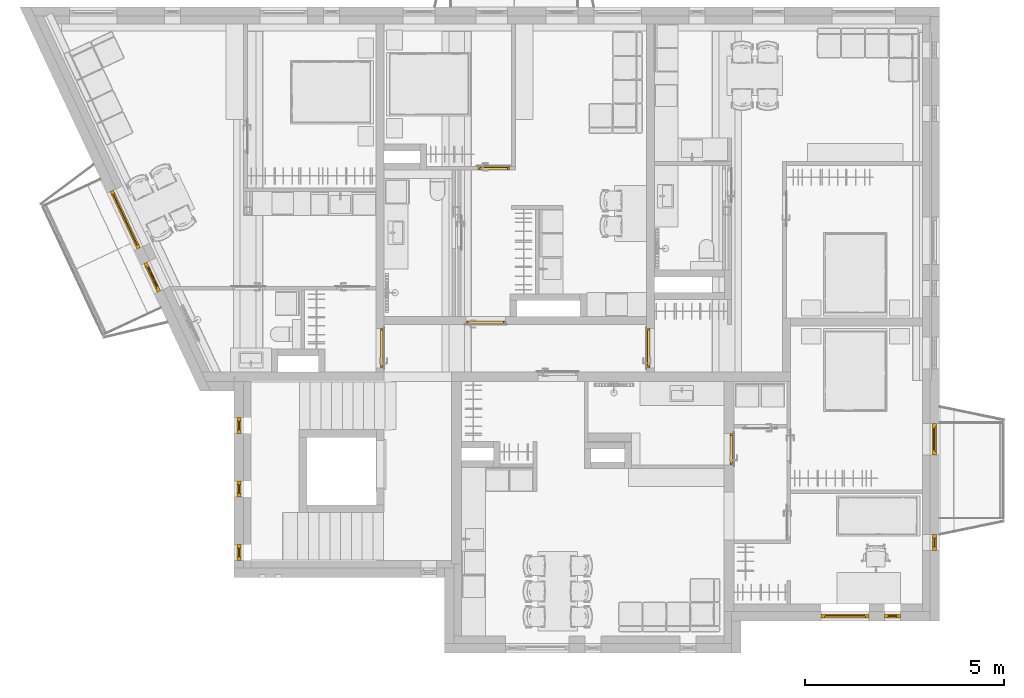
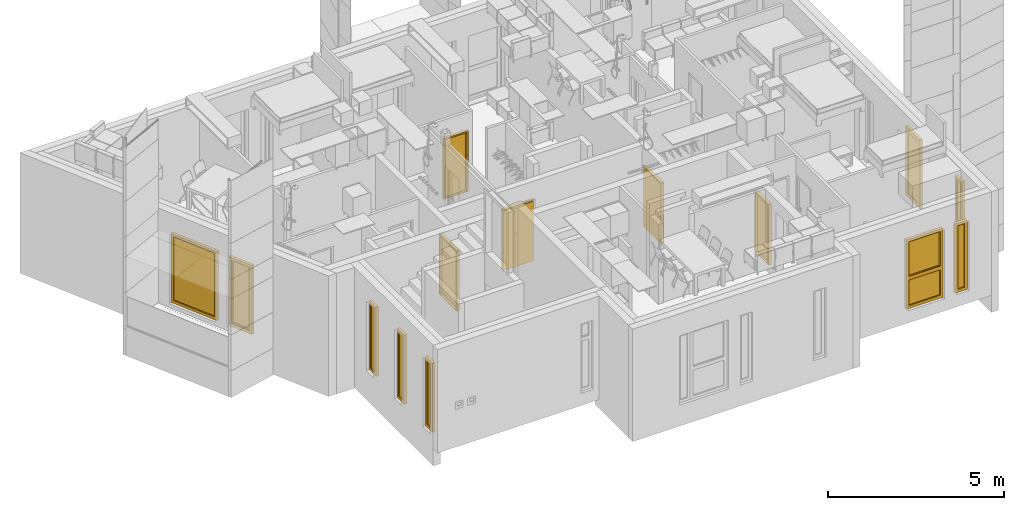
# One storey, part 44 of 125: 9 windows, 5 doors.
"""IFC2X3 building model written with IfcOpenShell, lengths in millimetres."""

from ifc_helpers import new_model, entity, si_unit, converted_unit, direction, frame, origin, place, context, subcontext, project, spatial, faceted_brep, source, transform, mapped, material, material_list, type_object, type_shapes, element, save


model = new_model("IFC2X3")

# Units and contexts
model_context = context("Model", 3, precision=0.01, world=origin(), true_north=direction((6.123233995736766e-17, 1.0)))
plan_context = context("Plan", 3, precision=0.01, world=origin(), true_north=direction((6.123233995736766e-17, 1.0)))
body_context = subcontext(model_context, "Body", "Model", "MODEL_VIEW")
ifc_project = project(units=[si_unit("LENGTHUNIT", "METRE", prefix="MILLI"), converted_unit("PLANEANGLEUNIT", "DEGREE", entity("IfcPlaneAngleMeasure", 0.017453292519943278), si_unit("PLANEANGLEUNIT", "RADIAN"), dimensions=[0, 0, 0, 0, 0, 0, 0]), si_unit("AREAUNIT", "SQUARE_METRE")], contexts=[model_context, plan_context])

# Site, building, storey
site_placement = place(None, origin())
site = spatial("IfcSite", under=ifc_project, at=site_placement, Name="Default", CompositionType="ELEMENT")
building_placement = place(site_placement, origin())
building = spatial("IfcBuilding", under=site, at=building_placement, CompositionType="ELEMENT")
storey_placement = place(building_placement, frame((0.0, 0.0, 3125.0)))
storey = spatial("IfcBuildingStorey", under=building, at=storey_placement, Name="2K", CompositionType="ELEMENT", Elevation=3125.0)

# Windows
ifc_material_1 = material(Name="_K. Klaas. Pakett")
ifc_material_2 = material(Name="_K. Avatäited. Raam. PVC. RAL9005")
ifc_material_3 = material(Name="_K. Avatäited. Raam. PVC. Valge")
ifc_material_list_1 = material_list([ifc_material_1, ifc_material_2, ifc_material_3])
window_style_1 = type_object("IfcWindowStyle", Name="HR_Window_Generic_Rectangle_1x2:A-13.1200x2400.P", ConstructionType="NOTDEFINED", OperationType="NOTDEFINED", ParameterTakesPrecedence=False, Sizeable=False, material=ifc_material_list_1)
shared_shape_1 = source(origin(), body_context, "Body", "Brep", [
    faceted_brep([(78.0, -154.0, 2322.0), (1122.0, -154.0, 2322.0), (1122.0, -154.0, 1101.0), (78.0, -154.0, 1101.0), (1122.0, -179.0, 2322.0), (1122.0, -179.0, 1101.0), (78.0, -179.0, 1101.0), (78.0, -179.0, 2322.0)], [[[0, 1, 2, 3]], [[2, 1, 4, 5]], [[3, 2, 5, 6]], [[0, 3, 6, 7]], [[7, 6, 5, 4]], [[1, 0, 7, 4]]]),
    faceted_brep([(1122.0, -154.0, 2322.0), (1122.0, -154.0, 1101.0), (1122.0, -179.0, 1101.0), (1122.0, -179.0, 2322.0), (1142.0, -134.0, 2342.0), (58.0, -134.0, 2342.0), (58.0, -194.0, 2342.0), (1142.0, -194.0, 2342.0), (98.0, -154.0, 2302.0), (98.0, -134.0, 2302.0), (1102.0, -134.0, 2302.0), (1102.0, -154.0, 2302.0), (98.0, -179.0, 2302.0), (98.0, -194.0, 2302.0), (98.0, -194.0, 1121.0), (98.0, -179.0, 1121.0), (1142.0, -134.0, 1081.0), (1142.0, -194.0, 1081.0), (58.0, -194.0, 1081.0), (58.0, -134.0, 1081.0), (1102.0, -194.0, 2302.0), (1102.0, -194.0, 1121.0), (98.0, -134.0, 1121.0), (1102.0, -134.0, 1121.0), (98.0, -154.0, 1121.0), (1102.0, -154.0, 1121.0), (78.0, -154.0, 1101.0), (78.0, -179.0, 1101.0), (78.0, -154.0, 2322.0), (78.0, -179.0, 2322.0), (1102.0, -179.0, 2302.0), (1102.0, -179.0, 1121.0)], [[[0, 1, 2, 3]], [[4, 5, 6, 7]], [[8, 9, 10, 11]], [[12, 13, 14, 15]], [[16, 17, 18, 19]], [[4, 7, 17, 16]], [[13, 20, 21, 14], [7, 6, 18, 17]], [[6, 5, 19, 18]], [[5, 4, 16, 19], [10, 9, 22, 23]], [[9, 8, 24, 22]], [[25, 23, 22, 24]], [[11, 10, 23, 25]], [[1, 26, 27, 2]], [[26, 28, 29, 27]], [[28, 26, 1, 0], [8, 11, 25, 24]], [[28, 0, 3, 29]], [[20, 30, 31, 21]], [[21, 31, 15, 14]], [[29, 3, 2, 27], [30, 12, 15, 31]], [[13, 12, 30, 20]]], outer=[[True], [True], [True], [True], [True], [True], [False, True], [True], [True, False], [True], [True], [True], [True], [True], [True, False], [True], [True], [True], [True, False], [True]]),
    faceted_brep([(88.0, -194.0, 989.0), (1112.0, -194.0, 989.0), (1112.0, -194.0, 108.0), (88.0, -194.0, 108.0), (1142.0, -194.0, 1019.0), (58.0, -194.0, 1019.0), (58.0, -194.0, 78.0), (1142.0, -194.0, 78.0), (88.0, -159.0, 989.0), (88.0, -159.0, 108.0), (1112.0, -159.0, 108.0), (1142.0, -159.0, 1019.0), (1142.0, -159.0, 78.0), (58.0, -159.0, 78.0), (58.0, -159.0, 1019.0), (1112.0, -159.0, 989.0)], [[[0, 1, 2, 3], [4, 5, 6, 7]], [[8, 0, 3, 9]], [[9, 3, 2, 10]], [[11, 12, 13, 14], [15, 8, 9, 10]], [[1, 15, 10, 2]], [[6, 5, 14, 13]], [[7, 6, 13, 12]], [[4, 7, 12, 11]], [[15, 1, 0, 8]], [[5, 4, 11, 14]]], outer=[[False, True], [True], [True], [True, False], [True], [True], [True], [True], [True], [True]]),
    faceted_brep([(1142.0, -159.0, 1019.0), (58.0, -159.0, 1019.0), (58.0, -159.0, 78.0), (1142.0, -159.0, 78.0), (58.0, -134.0, 1019.0), (58.0, -134.0, 78.0), (1142.0, -134.0, 78.0), (1142.0, -134.0, 1019.0)], [[[0, 1, 2, 3]], [[2, 1, 4, 5]], [[3, 2, 5, 6]], [[0, 3, 6, 7]], [[7, 6, 5, 4]], [[1, 0, 7, 4]]]),
    faceted_brep([(58.0, -134.0, 2342.0), (58.0, -134.0, 1081.0), (1142.0, -134.0, 1081.0), (1142.0, -134.0, 2342.0), (88.0, -134.0, 2312.0), (1112.0, -134.0, 2312.0), (1112.0, -134.0, 1111.0), (88.0, -134.0, 1111.0), (1142.0, -134.0, 1019.0), (1142.0, -134.0, 78.0), (1142.0, -194.0, 78.0), (1142.0, -194.0, 1019.0), (58.0, -134.0, 78.0), (58.0, -134.0, 1019.0), (58.0, -194.0, 1019.0), (58.0, -194.0, 78.0), (1112.0, -100.0, 108.0), (88.0, -100.0, 108.0), (88.0, -134.0, 108.0), (1112.0, -134.0, 108.0), (88.0, -100.0, 989.0), (88.0, -134.0, 989.0), (1112.0, -100.0, 989.0), (1112.0, -134.0, 989.0), (1200.0, -194.0, 2400.0), (0.0, -194.0, 2400.0), (0.0, -194.0, 30.0), (1200.0, -194.0, 30.0), (58.0, -194.0, 2342.0), (1142.0, -194.0, 2342.0), (1142.0, -194.0, 1081.0), (58.0, -194.0, 1081.0), (0.0, -100.0, 2400.0), (0.0, -100.0, 30.0), (0.0, -110.0, 30.0), (0.0, -110.0, 0.0), (0.0, -184.0, 0.0), (0.0, -184.0, 30.0), (1200.0, -184.0, 30.0), (1200.0, -100.0, 2400.0), (1200.0, -184.0, 0.0), (1200.0, -110.0, 0.0), (1200.0, -110.0, 30.0), (1200.0, -100.0, 30.0), (88.0, -100.0, 2312.0), (88.0, -100.0, 1111.0), (1112.0, -100.0, 1111.0), (1112.0, -100.0, 2312.0)], [[[0, 1, 2, 3], [4, 5, 6, 7]], [[8, 9, 10, 11]], [[12, 13, 14, 15]], [[9, 12, 15, 10]], [[16, 17, 18, 19]], [[17, 20, 21, 18]], [[22, 16, 19, 23]], [[11, 10, 15, 14], [24, 25, 26, 27], [28, 29, 30, 31]], [[25, 32, 33, 34, 35, 36, 37, 26]], [[37, 38, 27, 26]], [[39, 24, 27, 38, 40, 41, 42, 43]], [[17, 16, 22, 20], [32, 39, 43, 33], [44, 45, 46, 47]], [[42, 34, 33, 43]], [[34, 42, 41, 35]], [[35, 41, 40, 36]], [[38, 37, 36, 40]], [[25, 24, 39, 32]], [[44, 47, 5, 4]], [[47, 46, 6, 5]], [[45, 44, 4, 7]], [[0, 3, 29, 28]], [[3, 2, 30, 29]], [[13, 8, 11, 14]], [[1, 0, 28, 31]], [[2, 1, 31, 30]], [[46, 45, 7, 6]], [[20, 22, 23, 21]], [[9, 8, 13, 12], [19, 18, 21, 23]]], outer=[[True, False], [True], [True], [True], [True], [True], [True], [False, True, False], [True], [True], [True], [False, True, False], [True], [True], [True], [True], [True], [True], [True], [True], [True], [True], [True], [True], [True], [True], [True], [True, False]]),
])
type_shapes(window_style_1, [shared_shape_1])
window_1_placement = place(storey_placement, frame((15550.0, 350.0, 0.0), z_axis=(0.0, 0.0, 1.0), x_axis=(-1.0, 0.0, 0.0)))
element("IfcWindow", 1, at=window_1_placement, inside=storey, type_object=window_style_1, material=ifc_material_list_1, Name="HR_Window_Generic_Rectangle_1x2:A-13.1200x2400.P", ObjectType="HR_Window_Generic_Rectangle_1x2:A-13.1200x2400.P", OverallHeight=2465.0000000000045, OverallWidth=1200.0000000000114, context=body_context, shape_type="MappedRepresentation", body=[
    mapped(shared_shape_1, transform((0.0, 0.0, 0.0), scale=1.0)),
])
ifc_material_list_2 = material_list([ifc_material_3, ifc_material_1, ifc_material_2])
window_style_2 = type_object("IfcWindowStyle", Name="HR_Window_Generic_Rectangle_1x1:A-01.400x2400.ma", ConstructionType="NOTDEFINED", OperationType="NOTDEFINED", ParameterTakesPrecedence=False, Sizeable=False, material=ifc_material_list_2)
shared_shape_2 = source(origin(), body_context, "Body", "Brep", [
    faceted_brep([(88.0, -194.0, 2312.0), (312.0, -194.0, 2312.0), (312.0, -194.0, 108.0), (88.0, -194.0, 108.0), (342.0, -194.0, 2342.0), (58.0, -194.0, 2342.0), (58.0, -194.0, 78.0), (342.0, -194.0, 78.0), (88.0, -159.0, 2312.0), (88.0, -159.0, 108.0), (312.0, -159.0, 108.0), (342.0, -159.0, 2342.0), (342.0, -159.0, 78.0), (58.0, -159.0, 78.0), (58.0, -159.0, 2342.0), (312.0, -159.0, 2312.0)], [[[0, 1, 2, 3], [4, 5, 6, 7]], [[8, 0, 3, 9]], [[9, 3, 2, 10]], [[11, 12, 13, 14], [15, 8, 9, 10]], [[1, 15, 10, 2]], [[6, 5, 14, 13]], [[7, 6, 13, 12]], [[4, 7, 12, 11]], [[15, 1, 0, 8]], [[5, 4, 11, 14]]], outer=[[False, True], [True], [True], [True, False], [True], [True], [True], [True], [True], [True]]),
    faceted_brep([(342.0, -159.0, 2342.0), (58.0, -159.0, 2342.0), (58.0, -159.0, 78.0), (342.0, -159.0, 78.0), (58.0, -134.0, 2342.0), (58.0, -134.0, 78.0), (342.0, -134.0, 78.0), (342.0, -134.0, 2342.0)], [[[0, 1, 2, 3]], [[2, 1, 4, 5]], [[3, 2, 5, 6]], [[0, 3, 6, 7]], [[7, 6, 5, 4]], [[1, 0, 7, 4]]]),
    faceted_brep([(342.0, -134.0, 78.0), (58.0, -134.0, 78.0), (58.0, -194.0, 78.0), (342.0, -194.0, 78.0), (58.0, -134.0, 2342.0), (58.0, -194.0, 2342.0), (342.0, -134.0, 2342.0), (342.0, -194.0, 2342.0), (88.0, -100.0, 108.0), (88.0, -100.0, 2312.0), (88.0, -134.0, 2312.0), (88.0, -134.0, 108.0), (312.0, -100.0, 108.0), (312.0, -134.0, 108.0), (312.0, -100.0, 2312.0), (312.0, -134.0, 2312.0), (0.0, -100.0, 2400.0), (400.0, -100.0, 2400.0), (400.0, -100.0, 30.0), (0.0, -100.0, 30.0), (400.0, -194.0, 2400.0), (0.0, -194.0, 2400.0), (0.0, -194.0, 30.0), (400.0, -194.0, 30.0), (0.0, -110.0, 30.0), (0.0, -110.0, 0.0), (0.0, -184.0, 0.0), (0.0, -184.0, 30.0), (400.0, -184.0, 30.0), (400.0, -184.0, 0.0), (400.0, -110.0, 0.0), (400.0, -110.0, 30.0)], [[[0, 1, 2, 3]], [[1, 4, 5, 2]], [[6, 0, 3, 7]], [[8, 9, 10, 11]], [[12, 8, 11, 13]], [[14, 12, 13, 15]], [[16, 17, 18, 19], [9, 8, 12, 14]], [[20, 21, 22, 23], [7, 3, 2, 5]], [[21, 16, 19, 24, 25, 26, 27, 22]], [[27, 28, 23, 22]], [[17, 20, 23, 28, 29, 30, 31, 18]], [[31, 24, 19, 18]], [[24, 31, 30, 25]], [[25, 30, 29, 26]], [[28, 27, 26, 29]], [[4, 6, 7, 5]], [[9, 14, 15, 10]], [[21, 20, 17, 16]], [[10, 15, 13, 11], [0, 6, 4, 1]]], outer=[[True], [True], [True], [True], [True], [True], [True, False], [True, False], [True], [True], [True], [True], [True], [True], [True], [True], [True], [True], [False, True]]),
])
type_shapes(window_style_2, [shared_shape_2])
for number, where, z_axis, x_axis in (
    (2, (17350.0, 2550.0, 0.0), (0.0, 0.0, 1.0), (0.0, -1.0, 0.0)),
    (3, (16350.0, 350.0, 0.0), (0.0, 0.0, 1.0), (-1.0, 0.0, 0.0)),
    (4, (-450.0, 1900.0, 0.0), (0.0, 0.0, 1.0), (0.0, 1.0, 0.0)),
    (5, (-450.0, 3500.0, 0.0), (0.0, 0.0, 1.0), (0.0, 1.0, 0.0)),
    (6, (-450.0, 5100.0, 0.0), (0.0, 0.0, 1.0), (0.0, 1.0, 0.0)),
):
    element("IfcWindow", number, at=place(storey_placement, frame(where, z_axis=z_axis, x_axis=x_axis)), inside=storey, type_object=window_style_2, material=ifc_material_list_2, Name="HR_Window_Generic_Rectangle_1x1:A-01.400x2400.ma", ObjectType="HR_Window_Generic_Rectangle_1x1:A-01.400x2400.ma", OverallHeight=2465.0000000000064, OverallWidth=400.0000000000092, context=body_context, shape_type="MappedRepresentation", body=[
        mapped(shared_shape_2, transform((0.0, 0.0, 0.0), scale=1.0)),
    ])
ifc_material_list_3 = material_list([ifc_material_1, ifc_material_2])
window_style_3 = type_object("IfcWindowStyle", Name="HR_Window_Generic_Rectangle_1x1:A-10.800x2400.P", ConstructionType="NOTDEFINED", OperationType="NOTDEFINED", ParameterTakesPrecedence=False, Sizeable=False, material=ifc_material_list_3)
shared_shape_3 = source(origin(), body_context, "Body", "Brep", [
    faceted_brep([(108.0, -154.0, 2292.0), (692.0, -154.0, 2292.0), (692.0, -154.0, 128.0), (108.0, -154.0, 128.0), (692.0, -179.0, 2292.0), (692.0, -179.0, 128.0), (108.0, -179.0, 128.0), (108.0, -179.0, 2292.0)], [[[0, 1, 2, 3]], [[2, 1, 4, 5]], [[3, 2, 5, 6]], [[0, 3, 6, 7]], [[7, 6, 5, 4]], [[1, 0, 7, 4]]]),
    faceted_brep([(692.0, -154.0, 2292.0), (692.0, -154.0, 128.0), (692.0, -179.0, 128.0), (692.0, -179.0, 2292.0), (742.0, -134.0, 2342.0), (58.0, -134.0, 2342.0), (58.0, -194.0, 2342.0), (742.0, -194.0, 2342.0), (128.0, -154.0, 2272.0), (128.0, -134.0, 2272.0), (672.0, -134.0, 2272.0), (672.0, -154.0, 2272.0), (128.0, -179.0, 2272.0), (128.0, -194.0, 2272.0), (128.0, -194.0, 148.0), (128.0, -179.0, 148.0), (742.0, -134.0, 78.0), (742.0, -194.0, 78.0), (58.0, -194.0, 78.0), (58.0, -134.0, 78.0), (672.0, -194.0, 2272.0), (672.0, -194.0, 148.0), (128.0, -134.0, 148.0), (672.0, -134.0, 148.0), (128.0, -154.0, 148.0), (672.0, -154.0, 148.0), (108.0, -154.0, 128.0), (108.0, -179.0, 128.0), (108.0, -154.0, 2292.0), (108.0, -179.0, 2292.0), (672.0, -179.0, 2272.0), (672.0, -179.0, 148.0)], [[[0, 1, 2, 3]], [[4, 5, 6, 7]], [[8, 9, 10, 11]], [[12, 13, 14, 15]], [[16, 17, 18, 19]], [[4, 7, 17, 16]], [[13, 20, 21, 14], [7, 6, 18, 17]], [[6, 5, 19, 18]], [[5, 4, 16, 19], [10, 9, 22, 23]], [[9, 8, 24, 22]], [[25, 23, 22, 24]], [[11, 10, 23, 25]], [[1, 26, 27, 2]], [[26, 28, 29, 27]], [[28, 26, 1, 0], [8, 11, 25, 24]], [[28, 0, 3, 29]], [[20, 30, 31, 21]], [[21, 31, 15, 14]], [[29, 3, 2, 27], [30, 12, 15, 31]], [[13, 12, 30, 20]]], outer=[[True], [True], [True], [True], [True], [True], [False, True], [True], [True, False], [True], [True], [True], [True], [True], [True, False], [True], [True], [True], [True, False], [True]]),
    faceted_brep([(742.0, -134.0, 78.0), (58.0, -134.0, 78.0), (58.0, -194.0, 78.0), (742.0, -194.0, 78.0), (58.0, -134.0, 2342.0), (58.0, -194.0, 2342.0), (742.0, -134.0, 2342.0), (742.0, -194.0, 2342.0), (88.0, -100.0, 108.0), (88.0, -100.0, 2312.0), (88.0, -134.0, 2312.0), (88.0, -134.0, 108.0), (712.0, -100.0, 108.0), (712.0, -134.0, 108.0), (712.0, -100.0, 2312.0), (712.0, -134.0, 2312.0), (0.0, -100.0, 2400.0), (800.0, -100.0, 2400.0), (800.0, -100.0, 30.0), (0.0, -100.0, 30.0), (800.0, -194.0, 2400.0), (0.0, -194.0, 2400.0), (0.0, -194.0, 30.0), (800.0, -194.0, 30.0), (0.0, -110.0, 30.0), (0.0, -110.0, 0.0), (0.0, -184.0, 0.0), (0.0, -184.0, 30.0), (800.0, -184.0, 30.0), (800.0, -184.0, 0.0), (800.0, -110.0, 0.0), (800.0, -110.0, 30.0)], [[[0, 1, 2, 3]], [[1, 4, 5, 2]], [[6, 0, 3, 7]], [[8, 9, 10, 11]], [[12, 8, 11, 13]], [[14, 12, 13, 15]], [[16, 17, 18, 19], [9, 8, 12, 14]], [[20, 21, 22, 23], [7, 3, 2, 5]], [[21, 16, 19, 24, 25, 26, 27, 22]], [[27, 28, 23, 22]], [[17, 20, 23, 28, 29, 30, 31, 18]], [[31, 24, 19, 18]], [[24, 31, 30, 25]], [[25, 30, 29, 26]], [[28, 27, 26, 29]], [[4, 6, 7, 5]], [[9, 14, 15, 10]], [[21, 20, 17, 16]], [[10, 15, 13, 11], [0, 6, 4, 1]]], outer=[[True], [True], [True], [True], [True], [True], [True, False], [True, False], [True], [True], [True], [True], [True], [True], [True], [True], [True], [True], [False, True]]),
])
type_shapes(window_style_3, [shared_shape_3])
for number, where, z_axis, x_axis in (
    (7, (17350.0, 5350.0, 0.0), (0.0, 0.0, 1.0), (0.0, -1.0, 0.0)),
    (8, (-2454.5126056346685, 8606.308408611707, 0.0), (0.0, 0.0, 1.0), (-0.4244338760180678, 0.905458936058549, 0.0)),
):
    element("IfcWindow", number, at=place(storey_placement, frame(where, z_axis=z_axis, x_axis=x_axis)), inside=storey, type_object=window_style_3, material=ifc_material_list_3, Name="HR_Window_Generic_Rectangle_1x1:A-10.800x2400.P", ObjectType="HR_Window_Generic_Rectangle_1x1:A-10.800x2400.P", OverallHeight=2465.0000000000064, OverallWidth=800.000000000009, context=body_context, shape_type="MappedRepresentation", body=[
        mapped(shared_shape_3, transform((0.0, 0.0, 0.0), scale=1.0)),
    ])
window_style_4 = type_object("IfcWindowStyle", Name="HR_Window_Generic_Rectangle_1x1:A-04.1600x2400.ma", ConstructionType="NOTDEFINED", OperationType="NOTDEFINED", ParameterTakesPrecedence=False, Sizeable=False, material=ifc_material_list_2)
shared_shape_4 = source(origin(), body_context, "Body", "Brep", [
    faceted_brep([(88.0, -194.0, 2312.0), (1512.0, -194.0, 2312.0), (1512.0, -194.0, 108.0), (88.0, -194.0, 108.0), (1542.0, -194.0, 2342.0), (58.0, -194.0, 2342.0), (58.0, -194.0, 78.0), (1542.0, -194.0, 78.0), (88.0, -159.0, 2312.0), (88.0, -159.0, 108.0), (1512.0, -159.0, 108.0), (1542.0, -159.0, 2342.0), (1542.0, -159.0, 78.0), (58.0, -159.0, 78.0), (58.0, -159.0, 2342.0), (1512.0, -159.0, 2312.0)], [[[0, 1, 2, 3], [4, 5, 6, 7]], [[8, 0, 3, 9]], [[9, 3, 2, 10]], [[11, 12, 13, 14], [15, 8, 9, 10]], [[1, 15, 10, 2]], [[6, 5, 14, 13]], [[7, 6, 13, 12]], [[4, 7, 12, 11]], [[15, 1, 0, 8]], [[5, 4, 11, 14]]], outer=[[False, True], [True], [True], [True, False], [True], [True], [True], [True], [True], [True]]),
    faceted_brep([(1542.0, -159.0, 2342.0), (58.0, -159.0, 2342.0), (58.0, -159.0, 78.0), (1542.0, -159.0, 78.0), (58.0, -134.0, 2342.0), (58.0, -134.0, 78.0), (1542.0, -134.0, 78.0), (1542.0, -134.0, 2342.0)], [[[0, 1, 2, 3]], [[2, 1, 4, 5]], [[3, 2, 5, 6]], [[0, 3, 6, 7]], [[7, 6, 5, 4]], [[1, 0, 7, 4]]]),
    faceted_brep([(1542.0, -134.0, 78.0), (58.0, -134.0, 78.0), (58.0, -194.0, 78.0), (1542.0, -194.0, 78.0), (58.0, -134.0, 2342.0), (58.0, -194.0, 2342.0), (1542.0, -134.0, 2342.0), (1542.0, -194.0, 2342.0), (88.0, -100.0, 108.0), (88.0, -100.0, 2312.0), (88.0, -134.0, 2312.0), (88.0, -134.0, 108.0), (1512.0, -100.0, 108.0), (1512.0, -134.0, 108.0), (1512.0, -100.0, 2312.0), (1512.0, -134.0, 2312.0), (0.0, -100.0, 2400.0), (1600.0, -100.0, 2400.0), (1600.0, -100.0, 30.0), (0.0, -100.0, 30.0), (1600.0, -194.0, 2400.0), (0.0, -194.0, 2400.0), (0.0, -194.0, 30.0), (1600.0, -194.0, 30.0), (0.0, -110.0, 30.0), (0.0, -110.0, 0.0), (0.0, -184.0, 0.0), (0.0, -184.0, 30.0), (1600.0, -184.0, 30.0), (1600.0, -184.0, 0.0), (1600.0, -110.0, 0.0), (1600.0, -110.0, 30.0)], [[[0, 1, 2, 3]], [[1, 4, 5, 2]], [[6, 0, 3, 7]], [[8, 9, 10, 11]], [[12, 8, 11, 13]], [[14, 12, 13, 15]], [[16, 17, 18, 19], [9, 8, 12, 14]], [[20, 21, 22, 23], [7, 3, 2, 5]], [[21, 16, 19, 24, 25, 26, 27, 22]], [[27, 28, 23, 22]], [[17, 20, 23, 28, 29, 30, 31, 18]], [[31, 24, 19, 18]], [[24, 31, 30, 25]], [[25, 30, 29, 26]], [[28, 27, 26, 29]], [[4, 6, 7, 5]], [[9, 14, 15, 10]], [[21, 20, 17, 16]], [[10, 15, 13, 11], [0, 6, 4, 1]]], outer=[[True], [True], [True], [True], [True], [True], [True, False], [True, False], [True], [True], [True], [True], [True], [True], [True], [True], [True], [True], [False, True]]),
])
type_shapes(window_style_4, [shared_shape_4])
window_2_placement = place(storey_placement, frame((-2963.8332568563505, 9692.859131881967, 0.0), z_axis=(0.0, 0.0, 1.0), x_axis=(-0.4244338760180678, 0.905458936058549, 0.0)))
element("IfcWindow", 9, at=window_2_placement, inside=storey, type_object=window_style_4, material=ifc_material_list_2, Name="HR_Window_Generic_Rectangle_1x1:A-04.1600x2400.ma", ObjectType="HR_Window_Generic_Rectangle_1x1:A-04.1600x2400.ma", OverallHeight=2465.0000000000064, OverallWidth=1600.0000000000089, context=body_context, shape_type="MappedRepresentation", body=[
    mapped(shared_shape_4, transform((0.0, 0.0, 0.0), scale=1.0)),
])

# Doors
ifc_material_4 = material(Name="<Unnamed>")
ifc_material_5 = material(Name="Default")
ifc_material_list_4 = material_list([ifc_material_4, ifc_material_5])
door_style_1 = type_object("IfcDoorStyle", Name="HR_Generic_Hinged_Single:Default. Manteluks lävepakuga. 1000 x 2100 mm. Left", ConstructionType="NOTDEFINED", OperationType="NOTDEFINED", ParameterTakesPrecedence=False, Sizeable=False, material=ifc_material_list_4)
shared_shape_5 = source(origin(), body_context, "Body", "Brep", [
    faceted_brep([(965.0, -1000.0, 20.0), (35.0, -1000.0, 20.0), (35.0, -1030.0, 20.0), (50.0, -1030.0, 20.0), (50.0, -1092.0, 20.0), (950.0, -1092.0, 20.0), (950.0, -1030.0, 20.0), (965.0, -1030.0, 20.0), (35.0, -1000.0, 0.0), (965.0, -1000.0, 0.0), (965.0, -1030.0, 0.0), (950.0, -1030.0, 0.0), (950.0, -1092.0, 0.0), (50.0, -1092.0, 0.0), (50.0, -1030.0, 0.0), (35.0, -1030.0, 0.0)], [[[0, 1, 2, 3, 4, 5, 6, 7]], [[8, 9, 10, 11, 12, 13, 14, 15]], [[1, 0, 9, 8]], [[5, 4, 13, 12]], [[2, 1, 8, 15]], [[0, 7, 10, 9]], [[3, 14, 13, 4]], [[14, 3, 2, 15]], [[6, 11, 10, 7]], [[11, 6, 5, 12]]]),
    faceted_brep([(37.0, -1030.0, 2060.0), (37.0, -1030.0, 25.0), (963.0, -1030.0, 25.0), (963.0, -1030.0, 2060.0), (27.0, -990.0, 25.0), (27.0, -990.0, 2070.0), (973.0, -990.0, 2070.0), (973.0, -990.0, 25.0), (37.0, -1000.0, 2060.0), (37.0, -1000.0, 25.0), (27.0, -1000.0, 25.0), (973.0, -1000.0, 25.0), (963.0, -1000.0, 25.0), (963.0, -1000.0, 2060.0), (27.0, -1000.0, 2070.0), (973.0, -1000.0, 2070.0)], [[[0, 1, 2, 3]], [[4, 5, 6, 7]], [[1, 0, 8, 9]], [[2, 1, 9, 10, 4, 7, 11, 12]], [[3, 2, 12, 13]], [[0, 3, 13, 8]], [[14, 10, 9, 8, 13, 12, 11, 15]], [[6, 5, 14, 15]], [[7, 6, 15, 11]], [[5, 4, 10, 14]]]),
    faceted_brep([(1000.0, -1092.0, 0.0), (950.0, -1092.0, 0.0), (950.0, -1030.0, 0.0), (965.0, -1030.0, 0.0), (965.0, -1000.0, 0.0), (1000.0, -1000.0, 0.0), (1000.0, -1092.0, 2100.0), (0.0, -1092.0, 2100.0), (0.0, -1092.0, 0.0), (50.0, -1092.0, 0.0), (50.0, -1092.0, 2050.0), (950.0, -1092.0, 2050.0), (950.0, -1030.0, 2050.0), (35.0, -1030.0, 2065.0), (965.0, -1030.0, 2065.0), (50.0, -1030.0, 2050.0), (50.0, -1030.0, 0.0), (35.0, -1030.0, 0.0), (965.0, -1000.0, 2065.0), (0.0, -1000.0, 0.0), (0.0, -1000.0, 2100.0), (1000.0, -1000.0, 2100.0), (35.0, -1000.0, 2065.0), (35.0, -1000.0, 0.0)], [[[0, 1, 2, 3, 4, 5]], [[1, 0, 6, 7, 8, 9, 10, 11]], [[1, 11, 12, 2]], [[13, 14, 3, 2, 12, 15, 16, 17]], [[3, 14, 18, 4]], [[19, 20, 21, 5, 4, 18, 22, 23]], [[0, 5, 21, 6]], [[8, 19, 23, 17, 16, 9]], [[19, 8, 7, 20]], [[13, 17, 23, 22]], [[10, 9, 16, 15]], [[7, 6, 21, 20]], [[11, 10, 15, 12]], [[14, 13, 22, 18]]]),
])
type_shapes(door_style_1, [shared_shape_5])
door_1_placement = place(storey_placement, frame((8950.0, 6744.999979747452, 0.0), z_axis=(0.0, 0.0, 1.0), x_axis=(0.0, 1.0, 0.0)))
element("IfcDoor", 10, at=door_1_placement, inside=storey, type_object=door_style_1, material=ifc_material_list_4, Name="HR_Generic_Hinged_Single:Default. Manteluks lävepakuga. 1000 x 2100 mm. Left", ObjectType="HR_Generic_Hinged_Single:Default. Manteluks lävepakuga. 1000 x 2100 mm. Left", OverallHeight=2130.000000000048, OverallWidth=1060.0000000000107, context=body_context, shape_type="MappedRepresentation", body=[
    mapped(shared_shape_5, transform((0.0, 0.0, 0.0), scale=1.0)),
])
door_style_2 = type_object("IfcDoorStyle", Name="HR_Generic_Hinged_Single:Default. Manteluks lävepakuga. 1000 x 2100 mm. Right", ConstructionType="NOTDEFINED", OperationType="NOTDEFINED", ParameterTakesPrecedence=False, Sizeable=False, material=ifc_material_4)
shared_shape_6 = source(origin(), body_context, "Body", "Brep", [
    faceted_brep([(965.0, 1092.0, 20.0), (35.0, 1092.0, 20.0), (35.0, 1062.0, 20.0), (50.0, 1062.0, 20.0), (50.0, 1000.0, 20.0), (950.0, 1000.0, 20.0), (950.0, 1062.0, 20.0), (965.0, 1062.0, 20.0), (35.0, 1092.0, 0.0), (965.0, 1092.0, 0.0), (965.0, 1062.0, 0.0), (950.0, 1062.0, 0.0), (950.0, 1000.0, 0.0), (50.0, 1000.0, 0.0), (50.0, 1062.0, 0.0), (35.0, 1062.0, 0.0)], [[[0, 1, 2, 3, 4, 5, 6, 7]], [[8, 9, 10, 11, 12, 13, 14, 15]], [[1, 0, 9, 8]], [[5, 4, 13, 12]], [[2, 1, 8, 15]], [[0, 7, 10, 9]], [[3, 14, 13, 4]], [[14, 3, 2, 15]], [[6, 11, 10, 7]], [[11, 6, 5, 12]]]),
    faceted_brep([(37.0, 1062.0, 2060.0), (37.0, 1062.0, 25.0), (963.0, 1062.0, 25.0), (963.0, 1062.0, 2060.0), (27.0, 1102.0, 25.0), (27.0, 1102.0, 2070.0), (973.0, 1102.0, 2070.0), (973.0, 1102.0, 25.0), (37.0, 1092.0, 2060.0), (37.0, 1092.0, 25.0), (27.0, 1092.0, 25.0), (973.0, 1092.0, 25.0), (963.0, 1092.0, 25.0), (963.0, 1092.0, 2060.0), (27.0, 1092.0, 2070.0), (973.0, 1092.0, 2070.0)], [[[0, 1, 2, 3]], [[4, 5, 6, 7]], [[1, 0, 8, 9]], [[2, 1, 9, 10, 4, 7, 11, 12]], [[3, 2, 12, 13]], [[0, 3, 13, 8]], [[14, 10, 9, 8, 13, 12, 11, 15]], [[6, 5, 14, 15]], [[7, 6, 15, 11]], [[5, 4, 10, 14]]]),
    faceted_brep([(1000.0, 1000.0, 0.0), (950.0, 1000.0, 0.0), (950.0, 1062.0, 0.0), (965.0, 1062.0, 0.0), (965.0, 1092.0, 0.0), (1000.0, 1092.0, 0.0), (1000.0, 1000.0, 2100.0), (0.0, 1000.0, 2100.0), (0.0, 1000.0, 0.0), (50.0, 1000.0, 0.0), (50.0, 1000.0, 2050.0), (950.0, 1000.0, 2050.0), (950.0, 1062.0, 2050.0), (35.0, 1062.0, 2065.0), (965.0, 1062.0, 2065.0), (50.0, 1062.0, 2050.0), (50.0, 1062.0, 0.0), (35.0, 1062.0, 0.0), (965.0, 1092.0, 2065.0), (0.0, 1092.0, 0.0), (0.0, 1092.0, 2100.0), (1000.0, 1092.0, 2100.0), (35.0, 1092.0, 2065.0), (35.0, 1092.0, 0.0)], [[[0, 1, 2, 3, 4, 5]], [[1, 0, 6, 7, 8, 9, 10, 11]], [[1, 11, 12, 2]], [[13, 14, 3, 2, 12, 15, 16, 17]], [[3, 14, 18, 4]], [[19, 20, 21, 5, 4, 18, 22, 23]], [[0, 5, 21, 6]], [[8, 19, 23, 17, 16, 9]], [[19, 8, 7, 20]], [[13, 17, 23, 22]], [[10, 9, 16, 15]], [[7, 6, 21, 20]], [[11, 10, 15, 12]], [[14, 13, 22, 18]]]),
])
type_shapes(door_style_2, [shared_shape_6])
for number, where, z_axis, x_axis, name in (
    (11, (2252.9935349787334, 7744.999979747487, 0.0), (0.0, 0.0, 1.0), (0.0, -1.0, 0.0), "HR_Generic_Hinged_Single:Default. Manteluks lävepakuga. 1000 x 2100 mm. Right"),
    (12, (6404.0, 8932.0, 0.0), (0.0, 0.0, 1.0), (-1.0, 0.0, 0.0), "HR_Generic_Hinged_Single:Default. Manteluks lävepakuga. 1000 x 2100 mm. Right"),
):
    element("IfcDoor", number, at=place(storey_placement, frame(where, z_axis=z_axis, x_axis=x_axis)), inside=storey, type_object=door_style_2, material=ifc_material_4, Name=name, ObjectType="HR_Generic_Hinged_Single:Default. Manteluks lävepakuga. 1000 x 2100 mm. Right", OverallHeight=2130.000000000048, OverallWidth=1060.0000000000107, context=body_context, shape_type="MappedRepresentation", body=[
        mapped(shared_shape_6, transform((0.0, 0.0, 0.0), scale=1.0)),
    ])
ifc_material_6 = material(Name="_K. Puit. Peitsitud ja lakitud")
door_style_3 = type_object("IfcDoorStyle", Name="HR_Generic_Hinged_Single:Default. Manteluks lävepakuga. 800 x 2100 mm. Left", ConstructionType="NOTDEFINED", OperationType="NOTDEFINED", ParameterTakesPrecedence=False, Sizeable=False, material=ifc_material_6)
shared_shape_7 = source(origin(), body_context, "Body", "Brep", [
    faceted_brep([(765.0, -1000.0, 20.0), (35.0, -1000.0, 20.0), (35.0, -1030.0, 20.0), (50.0, -1030.0, 20.0), (50.0, -1092.0, 20.0), (750.0, -1092.0, 20.0), (750.0, -1030.0, 20.0), (765.0, -1030.0, 20.0), (35.0, -1000.0, 0.0), (765.0, -1000.0, 0.0), (765.0, -1030.0, 0.0), (750.0, -1030.0, 0.0), (750.0, -1092.0, 0.0), (50.0, -1092.0, 0.0), (50.0, -1030.0, 0.0), (35.0, -1030.0, 0.0)], [[[0, 1, 2, 3, 4, 5, 6, 7]], [[8, 9, 10, 11, 12, 13, 14, 15]], [[1, 0, 9, 8]], [[5, 4, 13, 12]], [[2, 1, 8, 15]], [[0, 7, 10, 9]], [[3, 14, 13, 4]], [[14, 3, 2, 15]], [[6, 11, 10, 7]], [[11, 6, 5, 12]]]),
    faceted_brep([(37.0, -1030.0, 2060.0), (37.0, -1030.0, 25.0), (763.0, -1030.0, 25.0), (763.0, -1030.0, 2060.0), (27.0, -990.0, 25.0), (27.0, -990.0, 2070.0), (773.0, -990.0, 2070.0), (773.0, -990.0, 25.0), (37.0, -1000.0, 2060.0), (37.0, -1000.0, 25.0), (27.0, -1000.0, 25.0), (773.0, -1000.0, 25.0), (763.0, -1000.0, 25.0), (763.0, -1000.0, 2060.0), (27.0, -1000.0, 2070.0), (773.0, -1000.0, 2070.0)], [[[0, 1, 2, 3]], [[4, 5, 6, 7]], [[1, 0, 8, 9]], [[2, 1, 9, 10, 4, 7, 11, 12]], [[3, 2, 12, 13]], [[0, 3, 13, 8]], [[14, 10, 9, 8, 13, 12, 11, 15]], [[6, 5, 14, 15]], [[7, 6, 15, 11]], [[5, 4, 10, 14]]]),
    faceted_brep([(800.0, -1092.0, 0.0), (750.0, -1092.0, 0.0), (750.0, -1030.0, 0.0), (765.0, -1030.0, 0.0), (765.0, -1000.0, 0.0), (800.0, -1000.0, 0.0), (800.0, -1092.0, 2100.0), (0.0, -1092.0, 2100.0), (0.0, -1092.0, 0.0), (50.0, -1092.0, 0.0), (50.0, -1092.0, 2050.0), (750.0, -1092.0, 2050.0), (750.0, -1030.0, 2050.0), (35.0, -1030.0, 2065.0), (765.0, -1030.0, 2065.0), (50.0, -1030.0, 2050.0), (50.0, -1030.0, 0.0), (35.0, -1030.0, 0.0), (765.0, -1000.0, 2065.0), (0.0, -1000.0, 0.0), (0.0, -1000.0, 2100.0), (800.0, -1000.0, 2100.0), (35.0, -1000.0, 2065.0), (35.0, -1000.0, 0.0)], [[[0, 1, 2, 3, 4, 5]], [[1, 0, 6, 7, 8, 9, 10, 11]], [[1, 11, 12, 2]], [[13, 14, 3, 2, 12, 15, 16, 17]], [[3, 14, 18, 4]], [[19, 20, 21, 5, 4, 18, 22, 23]], [[0, 5, 21, 6]], [[8, 19, 23, 17, 16, 9]], [[19, 8, 7, 20]], [[13, 17, 23, 22]], [[10, 9, 16, 15]], [[7, 6, 21, 20]], [[11, 10, 15, 12]], [[14, 13, 22, 18]]]),
])
type_shapes(door_style_3, [shared_shape_7])
door_2_placement = place(storey_placement, frame((5708.0, 12822.0, 0.0)))
element("IfcDoor", 13, at=door_2_placement, inside=storey, type_object=door_style_3, material=ifc_material_6, Name="HR_Generic_Hinged_Single:Default. Manteluks lävepakuga. 800 x 2100 mm. Left", ObjectType="HR_Generic_Hinged_Single:Default. Manteluks lävepakuga. 800 x 2100 mm. Left", OverallHeight=2130.000000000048, OverallWidth=860.0000000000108, context=body_context, shape_type="MappedRepresentation", body=[
    mapped(shared_shape_7, transform((0.0, 0.0, 0.0), scale=1.0)),
])
door_style_4 = type_object("IfcDoorStyle", Name="HR_Generic_Hinged_Single:Default. Manteluks lävepakuga. 800 x 2100 mm. Right", ConstructionType="NOTDEFINED", OperationType="NOTDEFINED", ParameterTakesPrecedence=False, Sizeable=False, material=ifc_material_6)
shared_shape_8 = source(origin(), body_context, "Body", "Brep", [
    faceted_brep([(765.0, 1092.0, 20.0), (35.0, 1092.0, 20.0), (35.0, 1062.0, 20.0), (50.0, 1062.0, 20.0), (50.0, 1000.0, 20.0), (750.0, 1000.0, 20.0), (750.0, 1062.0, 20.0), (765.0, 1062.0, 20.0), (35.0, 1092.0, 0.0), (765.0, 1092.0, 0.0), (765.0, 1062.0, 0.0), (750.0, 1062.0, 0.0), (750.0, 1000.0, 0.0), (50.0, 1000.0, 0.0), (50.0, 1062.0, 0.0), (35.0, 1062.0, 0.0)], [[[0, 1, 2, 3, 4, 5, 6, 7]], [[8, 9, 10, 11, 12, 13, 14, 15]], [[1, 0, 9, 8]], [[5, 4, 13, 12]], [[2, 1, 8, 15]], [[0, 7, 10, 9]], [[3, 14, 13, 4]], [[14, 3, 2, 15]], [[6, 11, 10, 7]], [[11, 6, 5, 12]]]),
    faceted_brep([(37.0, 1062.0, 2060.0), (37.0, 1062.0, 25.0), (763.0, 1062.0, 25.0), (763.0, 1062.0, 2060.0), (27.0, 1102.0, 25.0), (27.0, 1102.0, 2070.0), (773.0, 1102.0, 2070.0), (773.0, 1102.0, 25.0), (37.0, 1092.0, 2060.0), (37.0, 1092.0, 25.0), (27.0, 1092.0, 25.0), (773.0, 1092.0, 25.0), (763.0, 1092.0, 25.0), (763.0, 1092.0, 2060.0), (27.0, 1092.0, 2070.0), (773.0, 1092.0, 2070.0)], [[[0, 1, 2, 3]], [[4, 5, 6, 7]], [[1, 0, 8, 9]], [[2, 1, 9, 10, 4, 7, 11, 12]], [[3, 2, 12, 13]], [[0, 3, 13, 8]], [[14, 10, 9, 8, 13, 12, 11, 15]], [[6, 5, 14, 15]], [[7, 6, 15, 11]], [[5, 4, 10, 14]]]),
    faceted_brep([(800.0, 1000.0, 0.0), (750.0, 1000.0, 0.0), (750.0, 1062.0, 0.0), (765.0, 1062.0, 0.0), (765.0, 1092.0, 0.0), (800.0, 1092.0, 0.0), (800.0, 1000.0, 2100.0), (0.0, 1000.0, 2100.0), (0.0, 1000.0, 0.0), (50.0, 1000.0, 0.0), (50.0, 1000.0, 2050.0), (750.0, 1000.0, 2050.0), (750.0, 1062.0, 2050.0), (35.0, 1062.0, 2065.0), (765.0, 1062.0, 2065.0), (50.0, 1062.0, 2050.0), (50.0, 1062.0, 0.0), (35.0, 1062.0, 0.0), (765.0, 1092.0, 2065.0), (0.0, 1092.0, 0.0), (0.0, 1092.0, 2100.0), (800.0, 1092.0, 2100.0), (35.0, 1092.0, 2065.0), (35.0, 1092.0, 0.0)], [[[0, 1, 2, 3, 4, 5]], [[1, 0, 6, 7, 8, 9, 10, 11]], [[1, 11, 12, 2]], [[13, 14, 3, 2, 12, 15, 16, 17]], [[3, 14, 18, 4]], [[19, 20, 21, 5, 4, 18, 22, 23]], [[0, 5, 21, 6]], [[8, 19, 23, 17, 16, 9]], [[19, 8, 7, 20]], [[13, 17, 23, 22]], [[10, 9, 16, 15]], [[7, 6, 21, 20]], [[11, 10, 15, 12]], [[14, 13, 22, 18]]]),
])
type_shapes(door_style_4, [shared_shape_8])
door_3_placement = place(storey_placement, frame((11057.99353497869, 5099.997631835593, 0.0), z_axis=(0.0, 0.0, 1.0), x_axis=(0.0, -1.0, 0.0)))
element("IfcDoor", 14, at=door_3_placement, inside=storey, type_object=door_style_4, material=ifc_material_6, Name="HR_Generic_Hinged_Single:Default. Manteluks lävepakuga. 800 x 2100 mm. Right", ObjectType="HR_Generic_Hinged_Single:Default. Manteluks lävepakuga. 800 x 2100 mm. Right", OverallHeight=2130.000000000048, OverallWidth=860.0000000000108, context=body_context, shape_type="MappedRepresentation", body=[
    mapped(shared_shape_8, transform((0.0, 0.0, 0.0), scale=1.0)),
])

save(model, "model.ifc")
